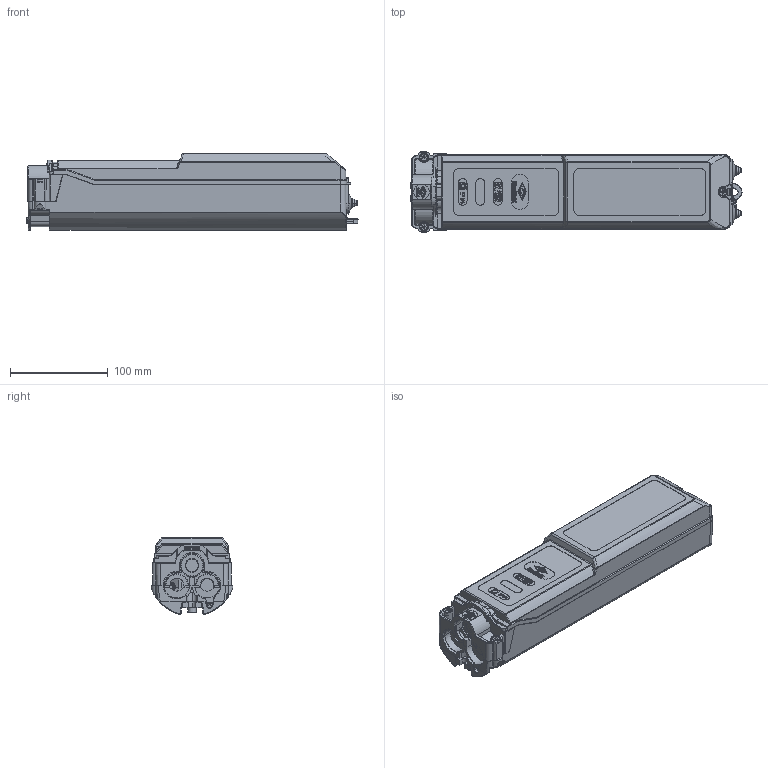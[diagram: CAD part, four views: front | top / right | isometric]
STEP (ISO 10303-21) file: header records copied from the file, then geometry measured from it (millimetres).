
FILE_DESCRIPTION (( 'STEP AP203' ), '1' );
FILE_NAME ('3D - HSW2535 Außenkontur.STEP', '2019-06-28T08:51:01', ( '' ), ( '' ), 'SwSTEP 2.0', 'SolidWorks 2013', '' );
FILE_SCHEMA (( 'CONFIG_CONTROL_DESIGN' ));
Products named in the file (1): 3D - HSW2535 Außenkontur
Bounding box: 339.54 x 83.5 x 78.61 mm (x, y, z)
Surface area: 125585.9 mm2 (no closed solid volume)
Topology: 0 solids, 26 shells, 1172 faces, 4235 edges, 3003 vertices
Faces by surface type: plane 533, cylinder 302, bspline 133, cone 101, torus 93, sphere 10
Entity records: 55338 total; most frequent: CARTESIAN_POINT 21570, ORIENTED_EDGE 6759, DIRECTION 6351, EDGE_CURVE 4225, VERTEX_POINT 3003, LINE 2435, VECTOR 2435, AXIS2_PLACEMENT_3D 1958
